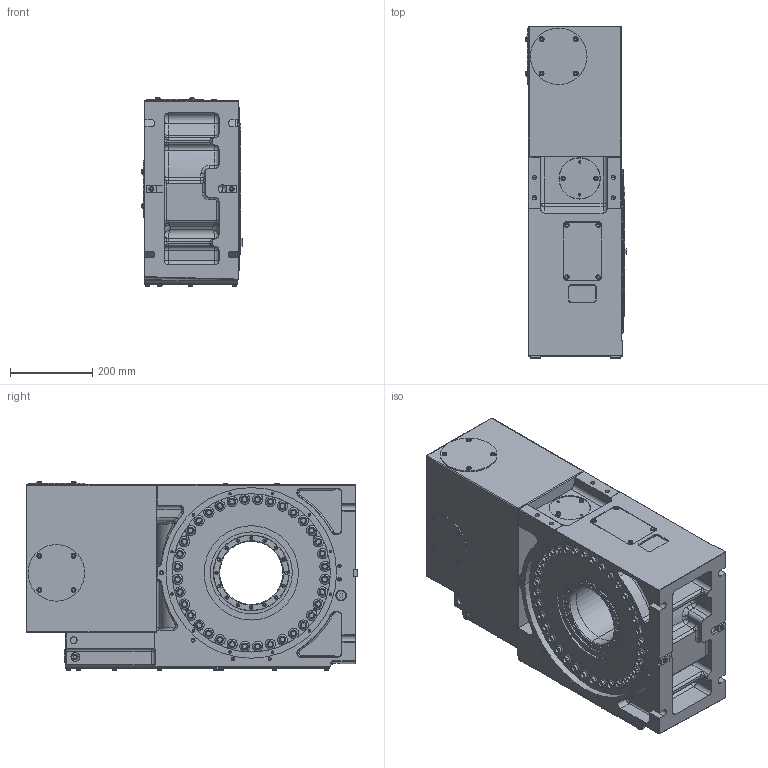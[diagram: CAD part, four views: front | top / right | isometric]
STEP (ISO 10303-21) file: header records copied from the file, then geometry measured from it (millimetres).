
FILE_DESCRIPTION (( 'STEP AP214' ), '1' );
FILE_NAME ('TUS400_カタログ用_タテ型.STEP', '2021-10-15T04:56:55', ( '' ), ( '' ), 'SwSTEP 2.0', 'SolidWorks 2020', '' );
FILE_SCHEMA (( 'AUTOMOTIVE_DESIGN' ));
Length unit declared in the file: millimetre
Products named in the file (1): TUS400_カタログ用_タテ型
Bounding box: 247.7 x 809 x 460.6 mm (x, y, z)
Volume: 67966128.4 mm3; surface area: 1991171.2 mm2
Topology: 9 solids, 14 shells, 3884 faces, 9716 edges, 6108 vertices
Faces by surface type: plane 2329, cylinder 892, cone 488, torus 117, bspline 42, sphere 16
Entity records: 159752 total; most frequent: CARTESIAN_POINT 23550, DIRECTION 19453, ORIENTED_EDGE 19106, EDGE_CURVE 9553, LINE 7053, VECTOR 7053, AXIS2_PLACEMENT_3D 6200, VERTEX_POINT 6106
